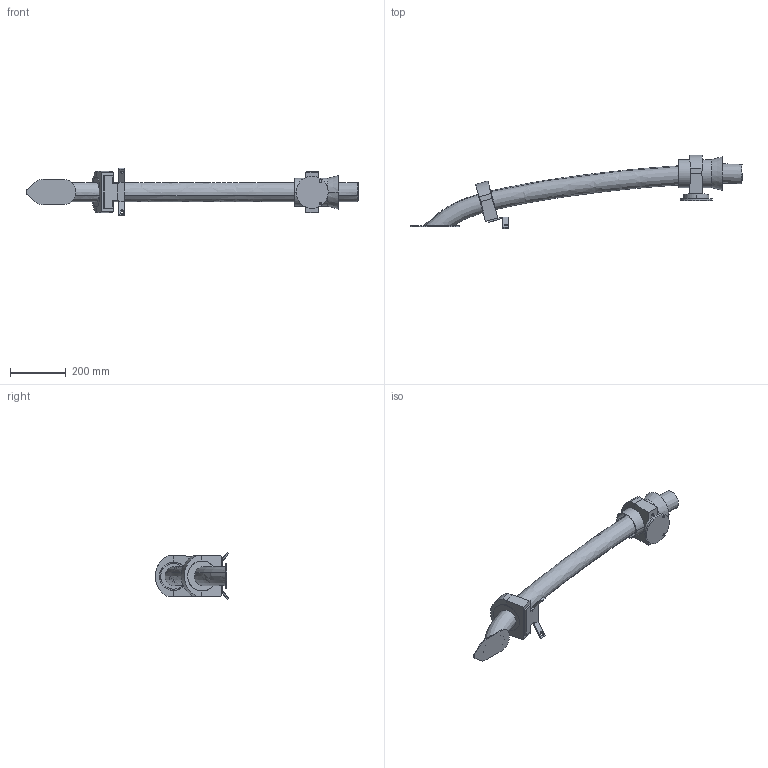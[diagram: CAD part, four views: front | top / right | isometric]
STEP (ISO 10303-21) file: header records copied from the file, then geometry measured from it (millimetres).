
FILE_DESCRIPTION (( 'STEP AP203' ), '1' );
FILE_NAME ('IRB6700-MH6_220-300_IRC5_rev01_LINK04_CABLE.STEP', '2014-08-27T11:26:53', ( 'ABB' ), ( 'ABB' ), 'SwSTEP 2.0', 'SolidWorks 2012', '' );
FILE_SCHEMA (( 'CONFIG_CONTROL_DESIGN' ));
Length unit declared in the file: millimetre
Products named in the file (1): IRB6700-MH6_220-300_IRC5_rev01_LINK04_CABLE
Bounding box: 1188.11 x 262.95 x 170.41 mm (x, y, z)
Volume: 5812409.9 mm3; surface area: 465174.7 mm2
Topology: 1 solids, 1 shells, 142 faces, 366 edges, 240 vertices
Faces by surface type: plane 81, cylinder 37, cone 14, bspline 6, sphere 4
Entity records: 41135 total; most frequent: CARTESIAN_POINT 37587, ORIENTED_EDGE 732, DIRECTION 702, EDGE_CURVE 366, VERTEX_POINT 240, AXIS2_PLACEMENT_3D 237, LINE 228, VECTOR 228
